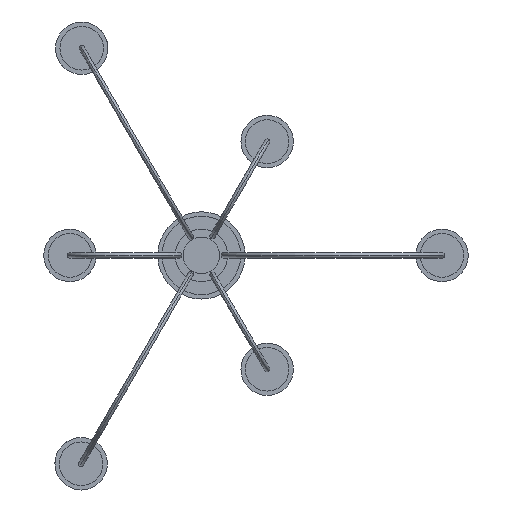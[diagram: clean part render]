
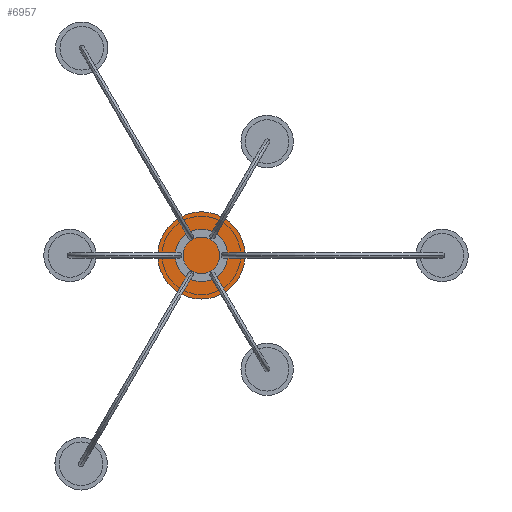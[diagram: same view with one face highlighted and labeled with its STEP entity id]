
A CAD part, front view. The second image highlights one B-rep face of the part: STEP entity #6957.
In plain terms, the highlighted planar face has unit normal (0, -1, 0).
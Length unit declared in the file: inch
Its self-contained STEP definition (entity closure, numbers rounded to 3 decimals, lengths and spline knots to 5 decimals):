
#56 = DIRECTION ( 'NONE',  ( 0., 0., 1. ) ) ;
#67 = EDGE_CURVE ( 'NONE', #1948, #2427, #4897, .T. ) ;
#82 = DIRECTION ( 'NONE',  ( 0., 1., 0. ) ) ;
#163 = EDGE_LOOP ( 'NONE', ( #2771, #1023 ) ) ;
#200 = EDGE_LOOP ( 'NONE', ( #2611, #7115 ) ) ;
#350 = CIRCLE ( 'NONE', #3962, 0.27559 ) ;
#428 = VERTEX_POINT ( 'NONE', #3498 ) ;
#515 = AXIS2_PLACEMENT_3D ( 'NONE', #4336, #5563, #6111 ) ;
#603 = CARTESIAN_POINT ( 'NONE',  ( 1.00394, 40.17717, 1.46328 ) ) ;
#689 = CARTESIAN_POINT ( 'NONE',  ( -2.00787, 40.17717, 0.27559 ) ) ;
#705 = DIRECTION ( 'NONE',  ( 0., 1., 0. ) ) ;
#718 = CARTESIAN_POINT ( 'NONE',  ( -1.00394, 40.17717, -1.73887 ) ) ;
#722 = AXIS2_PLACEMENT_3D ( 'NONE', #7568, #6970, #5125 ) ;
#724 = DIRECTION ( 'NONE',  ( 0., 1., 0. ) ) ;
#734 = AXIS2_PLACEMENT_3D ( 'NONE', #5527, #7334, #3456 ) ;
#743 = FACE_BOUND ( 'NONE', #4265, .T. ) ;
#783 = FACE_BOUND ( 'NONE', #6797, .T. ) ;
#841 = CIRCLE ( 'NONE', #722, 0.27559 ) ;
#960 = AXIS2_PLACEMENT_3D ( 'NONE', #6904, #7371, #6793 ) ;
#990 = AXIS2_PLACEMENT_3D ( 'NONE', #4971, #1583, #2161 ) ;
#1023 = ORIENTED_EDGE ( 'NONE', *, *, #4804, .T. ) ;
#1081 = ORIENTED_EDGE ( 'NONE', *, *, #2851, .F. ) ;
#1105 = CIRCLE ( 'NONE', #4096, 0.27559 ) ;
#1139 = EDGE_CURVE ( 'NONE', #3799, #5643, #3479, .T. ) ;
#1174 = CARTESIAN_POINT ( 'NONE',  ( 1.00394, 40.17717, -1.46328 ) ) ;
#1259 = CIRCLE ( 'NONE', #6515, 3.935 ) ;
#1340 = FACE_BOUND ( 'NONE', #163, .T. ) ;
#1354 = DIRECTION ( 'NONE',  ( 0., 0., 1. ) ) ;
#1382 = CARTESIAN_POINT ( 'NONE',  ( 0., 40.17717, 3.935 ) ) ;
#1573 = EDGE_CURVE ( 'NONE', #5974, #6334, #6023, .T. ) ;
#1583 = DIRECTION ( 'NONE',  ( 0., 1., 0. ) ) ;
#1667 = EDGE_CURVE ( 'NONE', #6334, #5974, #6034, .T. ) ;
#1706 = VERTEX_POINT ( 'NONE', #1382 ) ;
#1763 = CARTESIAN_POINT ( 'NONE',  ( -2.00787, 40.17717, 0. ) ) ;
#1948 = VERTEX_POINT ( 'NONE', #603 ) ;
#1983 = DIRECTION ( 'NONE',  ( 0., 1., 0. ) ) ;
#2044 = FACE_OUTER_BOUND ( 'NONE', #5401, .T. ) ;
#2065 = CARTESIAN_POINT ( 'NONE',  ( -2.00787, 40.17717, -0.27559 ) ) ;
#2073 = EDGE_CURVE ( 'NONE', #4037, #3105, #350, .T. ) ;
#2076 = CARTESIAN_POINT ( 'NONE',  ( -1.00394, 40.17717, 1.46328 ) ) ;
#2142 = AXIS2_PLACEMENT_3D ( 'NONE', #1763, #82, #2996 ) ;
#2161 = DIRECTION ( 'NONE',  ( 0., 0., 1. ) ) ;
#2368 = CARTESIAN_POINT ( 'NONE',  ( 2.00787, 40.17717, 0. ) ) ;
#2383 = CIRCLE ( 'NONE', #990, 0.27559 ) ;
#2427 = VERTEX_POINT ( 'NONE', #7343 ) ;
#2459 = DIRECTION ( 'NONE',  ( 0., 1., 0. ) ) ;
#2514 = CARTESIAN_POINT ( 'NONE',  ( 1.00394, 40.17717, -1.73887 ) ) ;
#2611 = ORIENTED_EDGE ( 'NONE', *, *, #2073, .T. ) ;
#2617 = CARTESIAN_POINT ( 'NONE',  ( -1.00394, 40.17717, -1.46328 ) ) ;
#2771 = ORIENTED_EDGE ( 'NONE', *, *, #1139, .T. ) ;
#2851 = EDGE_CURVE ( 'NONE', #1706, #428, #5869, .T. ) ;
#2917 = ORIENTED_EDGE ( 'NONE', *, *, #1667, .T. ) ;
#2996 = DIRECTION ( 'NONE',  ( 0., 0., 1. ) ) ;
#3105 = VERTEX_POINT ( 'NONE', #6444 ) ;
#3130 = PLANE ( 'NONE',  #734 ) ;
#3194 = CARTESIAN_POINT ( 'NONE',  ( -1.00394, 40.17717, 2.01446 ) ) ;
#3223 = DIRECTION ( 'NONE',  ( 0., 0., 1. ) ) ;
#3376 = AXIS2_PLACEMENT_3D ( 'NONE', #2368, #4914, #1354 ) ;
#3398 = VERTEX_POINT ( 'NONE', #2065 ) ;
#3456 = DIRECTION ( 'NONE',  ( 0., 0., 1. ) ) ;
#3458 = AXIS2_PLACEMENT_3D ( 'NONE', #5673, #5551, #3223 ) ;
#3479 = CIRCLE ( 'NONE', #3730, 0.27559 ) ;
#3498 = CARTESIAN_POINT ( 'NONE',  ( 0., 40.17717, -3.935 ) ) ;
#3518 = ORIENTED_EDGE ( 'NONE', *, *, #5903, .T. ) ;
#3688 = CARTESIAN_POINT ( 'NONE',  ( 0., 40.17717, 0. ) ) ;
#3701 = FACE_BOUND ( 'NONE', #200, .T. ) ;
#3730 = AXIS2_PLACEMENT_3D ( 'NONE', #2514, #705, #56 ) ;
#3742 = FACE_BOUND ( 'NONE', #4940, .T. ) ;
#3766 = ORIENTED_EDGE ( 'NONE', *, *, #5138, .T. ) ;
#3799 = VERTEX_POINT ( 'NONE', #1174 ) ;
#3803 = ORIENTED_EDGE ( 'NONE', *, *, #4309, .F. ) ;
#3867 = CARTESIAN_POINT ( 'NONE',  ( 2.00787, 40.17717, -0.27559 ) ) ;
#3948 = AXIS2_PLACEMENT_3D ( 'NONE', #7725, #2459, #7246 ) ;
#3962 = AXIS2_PLACEMENT_3D ( 'NONE', #718, #1983, #5625 ) ;
#4037 = VERTEX_POINT ( 'NONE', #2617 ) ;
#4096 = AXIS2_PLACEMENT_3D ( 'NONE', #6467, #5320, #7135 ) ;
#4195 = VERTEX_POINT ( 'NONE', #689 ) ;
#4207 = ORIENTED_EDGE ( 'NONE', *, *, #5589, .T. ) ;
#4265 = EDGE_LOOP ( 'NONE', ( #5339, #2917 ) ) ;
#4309 = EDGE_CURVE ( 'NONE', #428, #1706, #1259, .T. ) ;
#4336 = CARTESIAN_POINT ( 'NONE',  ( 2.00787, 40.17717, 0. ) ) ;
#4422 = CARTESIAN_POINT ( 'NONE',  ( 1.00394, 40.17717, -2.01446 ) ) ;
#4447 = CARTESIAN_POINT ( 'NONE',  ( 2.00787, 40.17717, 0.27559 ) ) ;
#4467 = CIRCLE ( 'NONE', #3948, 0.27559 ) ;
#4581 = EDGE_CURVE ( 'NONE', #6043, #7772, #2383, .T. ) ;
#4622 = CIRCLE ( 'NONE', #2142, 0.27559 ) ;
#4709 = DIRECTION ( 'NONE',  ( 0., 0., 1. ) ) ;
#4757 = ORIENTED_EDGE ( 'NONE', *, *, #5750, .T. ) ;
#4804 = EDGE_CURVE ( 'NONE', #5643, #3799, #5642, .T. ) ;
#4816 = DIRECTION ( 'NONE',  ( 0., 0., 1. ) ) ;
#4826 = EDGE_LOOP ( 'NONE', ( #3766, #4207 ) ) ;
#4897 = CIRCLE ( 'NONE', #5904, 0.27559 ) ;
#4914 = DIRECTION ( 'NONE',  ( 0., 1., 0. ) ) ;
#4940 = EDGE_LOOP ( 'NONE', ( #3518, #6510 ) ) ;
#4971 = CARTESIAN_POINT ( 'NONE',  ( -1.00394, 40.17717, 1.73887 ) ) ;
#5125 = DIRECTION ( 'NONE',  ( 0., 0., 1. ) ) ;
#5138 = EDGE_CURVE ( 'NONE', #4195, #3398, #4622, .T. ) ;
#5320 = DIRECTION ( 'NONE',  ( 0., 1., 0. ) ) ;
#5339 = ORIENTED_EDGE ( 'NONE', *, *, #1573, .T. ) ;
#5401 = EDGE_LOOP ( 'NONE', ( #3803, #1081 ) ) ;
#5527 = CARTESIAN_POINT ( 'NONE',  ( 0., 40.17717, 0. ) ) ;
#5551 = DIRECTION ( 'NONE',  ( 0., 1., 0. ) ) ;
#5563 = DIRECTION ( 'NONE',  ( 0., 1., 0. ) ) ;
#5589 = EDGE_CURVE ( 'NONE', #3398, #4195, #7492, .T. ) ;
#5591 = DIRECTION ( 'NONE',  ( 0., 0., 1. ) ) ;
#5625 = DIRECTION ( 'NONE',  ( 0., 0., 1. ) ) ;
#5642 = CIRCLE ( 'NONE', #5896, 0.27559 ) ;
#5643 = VERTEX_POINT ( 'NONE', #4422 ) ;
#5673 = CARTESIAN_POINT ( 'NONE',  ( 0., 40.17717, 0. ) ) ;
#5750 = EDGE_CURVE ( 'NONE', #2427, #1948, #841, .T. ) ;
#5869 = CIRCLE ( 'NONE', #3458, 3.935 ) ;
#5896 = AXIS2_PLACEMENT_3D ( 'NONE', #7605, #7247, #4816 ) ;
#5903 = EDGE_CURVE ( 'NONE', #7772, #6043, #4467, .T. ) ;
#5904 = AXIS2_PLACEMENT_3D ( 'NONE', #7594, #5910, #4709 ) ;
#5910 = DIRECTION ( 'NONE',  ( 0., 1., 0. ) ) ;
#5974 = VERTEX_POINT ( 'NONE', #4447 ) ;
#6023 = CIRCLE ( 'NONE', #3376, 0.27559 ) ;
#6034 = CIRCLE ( 'NONE', #515, 0.27559 ) ;
#6043 = VERTEX_POINT ( 'NONE', #2076 ) ;
#6111 = DIRECTION ( 'NONE',  ( 0., 0., 1. ) ) ;
#6115 = FACE_BOUND ( 'NONE', #4826, .T. ) ;
#6334 = VERTEX_POINT ( 'NONE', #3867 ) ;
#6378 = EDGE_CURVE ( 'NONE', #3105, #4037, #1105, .T. ) ;
#6444 = CARTESIAN_POINT ( 'NONE',  ( -1.00394, 40.17717, -2.01446 ) ) ;
#6467 = CARTESIAN_POINT ( 'NONE',  ( -1.00394, 40.17717, -1.73887 ) ) ;
#6510 = ORIENTED_EDGE ( 'NONE', *, *, #4581, .T. ) ;
#6515 = AXIS2_PLACEMENT_3D ( 'NONE', #3688, #724, #5591 ) ;
#6793 = DIRECTION ( 'NONE',  ( 0., 0., 1. ) ) ;
#6797 = EDGE_LOOP ( 'NONE', ( #4757, #7790 ) ) ;
#6904 = CARTESIAN_POINT ( 'NONE',  ( -2.00787, 40.17717, 0. ) ) ;
#6957 = ADVANCED_FACE ( 'NONE', ( #1340, #3701, #6115, #3742, #783, #743, #2044 ), #3130, .F. ) ;
#6970 = DIRECTION ( 'NONE',  ( 0., 1., 0. ) ) ;
#7115 = ORIENTED_EDGE ( 'NONE', *, *, #6378, .T. ) ;
#7135 = DIRECTION ( 'NONE',  ( 0., 0., 1. ) ) ;
#7246 = DIRECTION ( 'NONE',  ( 0., 0., 1. ) ) ;
#7247 = DIRECTION ( 'NONE',  ( 0., 1., 0. ) ) ;
#7334 = DIRECTION ( 'NONE',  ( 0., 1., 0. ) ) ;
#7343 = CARTESIAN_POINT ( 'NONE',  ( 1.00394, 40.17717, 2.01446 ) ) ;
#7371 = DIRECTION ( 'NONE',  ( 0., 1., 0. ) ) ;
#7492 = CIRCLE ( 'NONE', #960, 0.27559 ) ;
#7568 = CARTESIAN_POINT ( 'NONE',  ( 1.00394, 40.17717, 1.73887 ) ) ;
#7594 = CARTESIAN_POINT ( 'NONE',  ( 1.00394, 40.17717, 1.73887 ) ) ;
#7605 = CARTESIAN_POINT ( 'NONE',  ( 1.00394, 40.17717, -1.73887 ) ) ;
#7725 = CARTESIAN_POINT ( 'NONE',  ( -1.00394, 40.17717, 1.73887 ) ) ;
#7772 = VERTEX_POINT ( 'NONE', #3194 ) ;
#7790 = ORIENTED_EDGE ( 'NONE', *, *, #67, .T. ) ;
